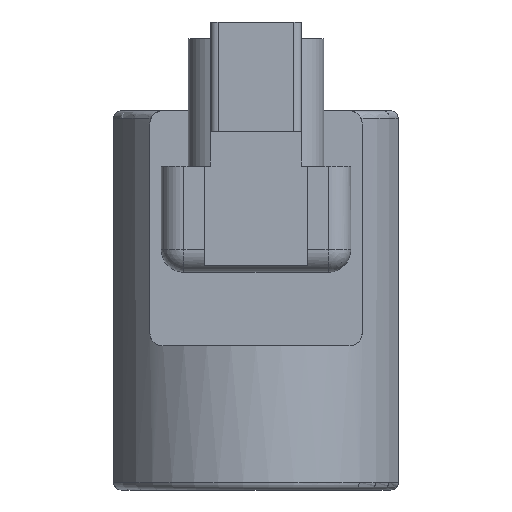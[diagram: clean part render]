
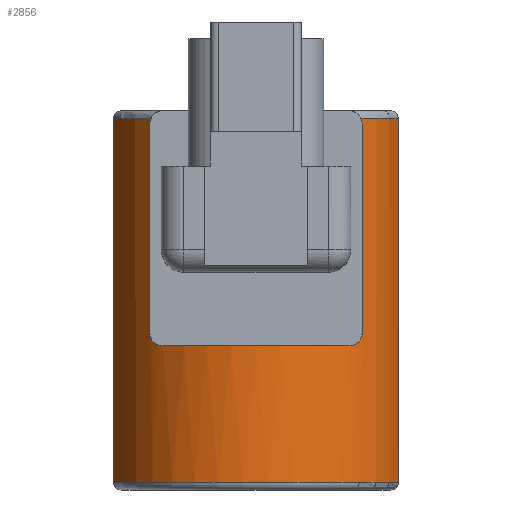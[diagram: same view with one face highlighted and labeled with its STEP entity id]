
A CAD part, left-side view. The second image highlights one B-rep face of the part: STEP entity #2856.
In plain terms, the highlighted cylindrical face has radius 19.5 mm (diameter 39 mm), a partial arc.
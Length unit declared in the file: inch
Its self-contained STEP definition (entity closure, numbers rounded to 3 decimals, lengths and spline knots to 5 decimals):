
#2427=CARTESIAN_POINT('',(6.43791,4.50279,-0.03937));
#2428=VERTEX_POINT('',#2427);
#2440=CARTESIAN_POINT('',(6.44468,4.50944,-0.0689));
#2441=VERTEX_POINT('',#2440);
#2442=CARTESIAN_POINT('',(6.44468,4.50944,-0.0689));
#2443=CARTESIAN_POINT('',(6.44468,4.50944,-0.06457));
#2444=CARTESIAN_POINT('',(6.44425,4.50903,-0.06017));
#2445=CARTESIAN_POINT('',(6.44256,4.50737,-0.05159));
#2446=CARTESIAN_POINT('',(6.44129,4.50614,-0.04739));
#2447=CARTESIAN_POINT('',(6.43914,4.50401,-0.04205));
#2448=CARTESIAN_POINT('',(6.43854,4.50342,-0.0407));
#2449=CARTESIAN_POINT('',(6.43791,4.50279,-0.03937));
#2450=B_SPLINE_CURVE_WITH_KNOTS('',3,(#2442,#2443,#2444,#2445,#2446,#2447,#2448,#2449),.UNSPECIFIED.,.F.,.U.,(4,2,2,4),(0.0,0.33006,0.66013,0.77574),.UNSPECIFIED.);
#2451=EDGE_CURVE('',#2441,#2428,#2450,.T.);
#2484=CARTESIAN_POINT('',(6.76822,4.69645,-0.03937));
#2485=VERTEX_POINT('',#2484);
#2503=CARTESIAN_POINT('',(6.97909,3.95826,-0.03937));
#2504=DIRECTION('',(0.0,0.0,1.0));
#2505=DIRECTION('',(-1.0,0.0,0.0));
#2506=AXIS2_PLACEMENT_3D('',#2503,#2504,#2505);
#2507=CIRCLE('',#2506,0.76772);
#2508=EDGE_CURVE('',#2485,#2428,#2507,.T.);
#2527=CARTESIAN_POINT('',(6.44468,3.40708,-0.0689));
#2528=VERTEX_POINT('',#2527);
#2535=CARTESIAN_POINT('',(6.43791,3.41373,-0.03937));
#2536=VERTEX_POINT('',#2535);
#2537=CARTESIAN_POINT('',(6.43791,3.41373,-0.03937));
#2538=CARTESIAN_POINT('',(6.43854,3.4131,-0.0407));
#2539=CARTESIAN_POINT('',(6.43914,3.41251,-0.04205));
#2540=CARTESIAN_POINT('',(6.44129,3.41038,-0.04739));
#2541=CARTESIAN_POINT('',(6.44256,3.40915,-0.05159));
#2542=CARTESIAN_POINT('',(6.44425,3.40749,-0.06017));
#2543=CARTESIAN_POINT('',(6.44468,3.40708,-0.06457));
#2544=CARTESIAN_POINT('',(6.44468,3.40708,-0.0689));
#2545=B_SPLINE_CURVE_WITH_KNOTS('',3,(#2537,#2538,#2539,#2540,#2541,#2542,#2543,#2544),.UNSPECIFIED.,.F.,.U.,(4,2,2,4),(-0.77574,-0.66013,-0.33006,0.0),.UNSPECIFIED.);
#2546=EDGE_CURVE('',#2536,#2528,#2545,.T.);
#2682=CARTESIAN_POINT('',(6.44468,3.40708,-1.15158));
#2683=VERTEX_POINT('',#2682);
#2684=CARTESIAN_POINT('',(6.44468,3.40708,-0.0689));
#2685=DIRECTION('',(0.0,0.0,-1.0));
#2686=VECTOR('',#2685,1.08268);
#2687=LINE('',#2684,#2686);
#2688=EDGE_CURVE('',#2528,#2683,#2687,.T.);
#2706=CARTESIAN_POINT('',(6.38177,3.47598,-1.22047));
#2707=VERTEX_POINT('',#2706);
#2708=CARTESIAN_POINT('',(6.44468,3.40708,-1.15158));
#2709=CARTESIAN_POINT('',(6.44468,3.40708,-1.15591));
#2710=CARTESIAN_POINT('',(6.44425,3.40749,-1.1603));
#2711=CARTESIAN_POINT('',(6.44256,3.40915,-1.16889));
#2712=CARTESIAN_POINT('',(6.44129,3.41038,-1.17308));
#2713=CARTESIAN_POINT('',(6.43651,3.4151,-1.18495));
#2714=CARTESIAN_POINT('',(6.43198,3.41964,-1.19191));
#2715=CARTESIAN_POINT('',(6.42094,3.43106,-1.20475));
#2716=CARTESIAN_POINT('',(6.41324,3.43927,-1.2107));
#2717=CARTESIAN_POINT('',(6.39734,3.45715,-1.21857));
#2718=CARTESIAN_POINT('',(6.38915,3.46683,-1.22047));
#2719=CARTESIAN_POINT('',(6.38177,3.47598,-1.22047));
#2720=B_SPLINE_CURVE_WITH_KNOTS('',3,(#2708,#2709,#2710,#2711,#2712,#2713,#2714,#2715,#2716,#2717,#2718,#2719),.UNSPECIFIED.,.F.,.U.,(4,2,2,2,2,4),(0.0,0.33006,0.66013,1.32026,2.21635,3.11244),.UNSPECIFIED.);
#2721=EDGE_CURVE('',#2683,#2707,#2720,.T.);
#2739=CARTESIAN_POINT('',(6.38177,4.44054,-1.22047));
#2740=VERTEX_POINT('',#2739);
#2741=CARTESIAN_POINT('',(6.97909,3.95826,-1.22047));
#2742=DIRECTION('',(0.0,0.0,-1.0));
#2743=DIRECTION('',(-1.0,0.0,0.0));
#2744=AXIS2_PLACEMENT_3D('',#2741,#2742,#2743);
#2745=CIRCLE('',#2744,0.76772);
#2746=EDGE_CURVE('',#2707,#2740,#2745,.T.);
#2764=CARTESIAN_POINT('',(6.44468,4.50944,-1.15158));
#2765=VERTEX_POINT('',#2764);
#2766=CARTESIAN_POINT('',(6.38177,4.44054,-1.22047));
#2767=CARTESIAN_POINT('',(6.38915,4.44969,-1.22047));
#2768=CARTESIAN_POINT('',(6.39734,4.45937,-1.21857));
#2769=CARTESIAN_POINT('',(6.41324,4.47725,-1.2107));
#2770=CARTESIAN_POINT('',(6.42094,4.48546,-1.20475));
#2771=CARTESIAN_POINT('',(6.43198,4.49688,-1.19191));
#2772=CARTESIAN_POINT('',(6.43651,4.50142,-1.18495));
#2773=CARTESIAN_POINT('',(6.44129,4.50614,-1.17308));
#2774=CARTESIAN_POINT('',(6.44256,4.50737,-1.16889));
#2775=CARTESIAN_POINT('',(6.44425,4.50903,-1.1603));
#2776=CARTESIAN_POINT('',(6.44468,4.50944,-1.15591));
#2777=CARTESIAN_POINT('',(6.44468,4.50944,-1.15158));
#2778=B_SPLINE_CURVE_WITH_KNOTS('',3,(#2766,#2767,#2768,#2769,#2770,#2771,#2772,#2773,#2774,#2775,#2776,#2777),.UNSPECIFIED.,.F.,.U.,(4,2,2,2,2,4),(-3.11244,-2.21635,-1.32026,-0.66013,-0.33006,0.0),.UNSPECIFIED.);
#2779=EDGE_CURVE('',#2740,#2765,#2778,.T.);
#2797=CARTESIAN_POINT('',(6.44468,4.50944,-1.15158));
#2798=DIRECTION('',(0.0,0.0,1.0));
#2799=VECTOR('',#2798,1.08268);
#2800=LINE('',#2797,#2799);
#2801=EDGE_CURVE('',#2765,#2441,#2800,.T.);
#2809=CARTESIAN_POINT('',(6.97909,3.95826,0.0));
#2810=DIRECTION('',(0.0,0.0,-1.0));
#2811=DIRECTION('',(-1.0,0.0,0.0));
#2812=AXIS2_PLACEMENT_3D('',#2809,#2810,#2811);
#2813=CYLINDRICAL_SURFACE('',#2812,0.76772);
#2814=ORIENTED_EDGE('',*,*,#2546,.T.);
#2815=ORIENTED_EDGE('',*,*,#2688,.T.);
#2816=ORIENTED_EDGE('',*,*,#2721,.T.);
#2817=ORIENTED_EDGE('',*,*,#2746,.T.);
#2818=ORIENTED_EDGE('',*,*,#2779,.T.);
#2819=ORIENTED_EDGE('',*,*,#2801,.T.);
#2820=ORIENTED_EDGE('',*,*,#2451,.T.);
#2821=ORIENTED_EDGE('',*,*,#2508,.F.);
#2822=CARTESIAN_POINT('',(6.76822,4.69645,-1.92913));
#2823=VERTEX_POINT('',#2822);
#2824=CARTESIAN_POINT('',(6.76822,4.69645,-0.03937));
#2825=DIRECTION('',(0.0,0.0,-1.0));
#2826=VECTOR('',#2825,1.88976);
#2827=LINE('',#2824,#2826);
#2828=EDGE_CURVE('',#2485,#2823,#2827,.T.);
#2829=ORIENTED_EDGE('',*,*,#2828,.T.);
#2830=CARTESIAN_POINT('',(6.76822,3.22007,-1.92913));
#2831=VERTEX_POINT('',#2830);
#2832=CARTESIAN_POINT('',(6.97909,3.95826,-1.92913));
#2833=DIRECTION('',(0.0,0.0,-1.0));
#2834=DIRECTION('',(-1.0,0.0,0.0));
#2835=AXIS2_PLACEMENT_3D('',#2832,#2833,#2834);
#2836=CIRCLE('',#2835,0.76772);
#2837=EDGE_CURVE('',#2831,#2823,#2836,.T.);
#2838=ORIENTED_EDGE('',*,*,#2837,.F.);
#2839=CARTESIAN_POINT('',(6.76822,3.22007,-0.03937));
#2840=VERTEX_POINT('',#2839);
#2841=CARTESIAN_POINT('',(6.76822,3.22007,-0.03937));
#2842=DIRECTION('',(0.0,0.0,-1.0));
#2843=VECTOR('',#2842,1.88976);
#2844=LINE('',#2841,#2843);
#2845=EDGE_CURVE('',#2840,#2831,#2844,.T.);
#2846=ORIENTED_EDGE('',*,*,#2845,.F.);
#2847=CARTESIAN_POINT('',(6.97909,3.95826,-0.03937));
#2848=DIRECTION('',(0.0,0.0,1.0));
#2849=DIRECTION('',(-1.0,0.0,0.0));
#2850=AXIS2_PLACEMENT_3D('',#2847,#2848,#2849);
#2851=CIRCLE('',#2850,0.76772);
#2852=EDGE_CURVE('',#2536,#2840,#2851,.T.);
#2853=ORIENTED_EDGE('',*,*,#2852,.F.);
#2854=EDGE_LOOP('',(#2814,#2815,#2816,#2817,#2818,#2819,#2820,#2821,#2829,#2838,#2846,#2853));
#2855=FACE_OUTER_BOUND('',#2854,.T.);
#2856=ADVANCED_FACE('',(#2855),#2813,.T.);
